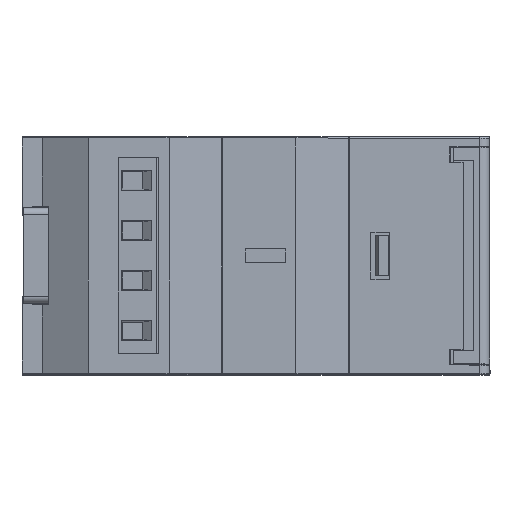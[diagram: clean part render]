
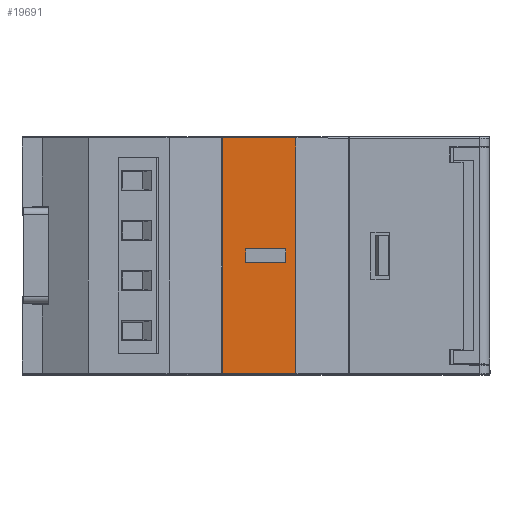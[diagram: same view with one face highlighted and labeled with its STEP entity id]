
A CAD part, top view. The second image highlights one B-rep face of the part: STEP entity #19691.
In plain terms, the highlighted planar face has unit normal (0, 0, 1).
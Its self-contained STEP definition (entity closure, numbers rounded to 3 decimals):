
#1879 = CARTESIAN_POINT ( 'NONE',  ( 39.5, 16.6, 74.75 ) ) ;
#3694 = LINE ( 'NONE', #29254, #54826 ) ;
#4334 = ORIENTED_EDGE ( 'NONE', *, *, #75658, .T. ) ;
#9789 = DIRECTION ( 'NONE',  ( 1., 0., 0. ) ) ;
#10201 = CARTESIAN_POINT ( 'NONE',  ( 30., 0., 74.75 ) ) ;
#11592 = CARTESIAN_POINT ( 'NONE',  ( 30., 35.2, 74.75 ) ) ;
#12620 = CARTESIAN_POINT ( 'NONE',  ( 39.5, 18.6, 74.75 ) ) ;
#14368 = CARTESIAN_POINT ( 'NONE',  ( 30., 35.4, 74.75 ) ) ;
#14709 = CARTESIAN_POINT ( 'NONE',  ( 33.5, 35.4, 74.75 ) ) ;
#15082 = VECTOR ( 'NONE', #68462, 1000. ) ;
#15676 = VERTEX_POINT ( 'NONE', #37745 ) ;
#16322 = EDGE_CURVE ( 'NONE', #32421, #16324, #44612, .T. ) ;
#16324 = VERTEX_POINT ( 'NONE', #63385 ) ;
#17054 = ORIENTED_EDGE ( 'NONE', *, *, #78366, .F. ) ;
#17289 = LINE ( 'NONE', #10201, #75641 ) ;
#17845 = FACE_BOUND ( 'NONE', #41049, .T. ) ;
#19054 = VERTEX_POINT ( 'NONE', #51695 ) ;
#19691 = ADVANCED_FACE ( 'NONE', ( #17845, #43377 ), #29206, .F. ) ;
#21129 = EDGE_LOOP ( 'NONE', ( #48738, #38425, #48945, #32172 ) ) ;
#21743 = DIRECTION ( 'NONE',  ( -1., 0., 0. ) ) ;
#23566 = CARTESIAN_POINT ( 'NONE',  ( 30., 35.2, 74.75 ) ) ;
#24558 = CARTESIAN_POINT ( 'NONE',  ( 41., 35.4, 74.75 ) ) ;
#26894 = LINE ( 'NONE', #14709, #76888 ) ;
#27353 = EDGE_CURVE ( 'NONE', #15676, #16324, #17289, .T. ) ;
#28046 = ORIENTED_EDGE ( 'NONE', *, *, #65072, .F. ) ;
#29206 = PLANE ( 'NONE',  #62647 ) ;
#29254 = CARTESIAN_POINT ( 'NONE',  ( 39.5, 35.4, 74.75 ) ) ;
#30157 = VECTOR ( 'NONE', #21743, 1000. ) ;
#30236 = CARTESIAN_POINT ( 'NONE',  ( 33.5, 16.6, 74.75 ) ) ;
#32172 = ORIENTED_EDGE ( 'NONE', *, *, #62748, .T. ) ;
#32381 = DIRECTION ( 'NONE',  ( 0., -1., 0. ) ) ;
#32421 = VERTEX_POINT ( 'NONE', #78842 ) ;
#35936 = LINE ( 'NONE', #11592, #15082 ) ;
#36725 = CARTESIAN_POINT ( 'NONE',  ( 30., 35.4, 74.75 ) ) ;
#37745 = CARTESIAN_POINT ( 'NONE',  ( 30., 0., 74.75 ) ) ;
#37875 = VECTOR ( 'NONE', #32381, 1000. ) ;
#38425 = ORIENTED_EDGE ( 'NONE', *, *, #16322, .F. ) ;
#39578 = LINE ( 'NONE', #1879, #76061 ) ;
#40044 = ORIENTED_EDGE ( 'NONE', *, *, #60274, .T. ) ;
#40617 = CARTESIAN_POINT ( 'NONE',  ( 39.5, 18.6, 74.75 ) ) ;
#41049 = EDGE_LOOP ( 'NONE', ( #40044, #17054, #4334, #28046 ) ) ;
#41058 = VERTEX_POINT ( 'NONE', #12620 ) ;
#42527 = CARTESIAN_POINT ( 'NONE',  ( 39.5, 16.6, 74.75 ) ) ;
#43377 = FACE_OUTER_BOUND ( 'NONE', #21129, .T. ) ;
#44612 = LINE ( 'NONE', #24558, #66024 ) ;
#44737 = VERTEX_POINT ( 'NONE', #23566 ) ;
#45762 = LINE ( 'NONE', #14368, #37875 ) ;
#48738 = ORIENTED_EDGE ( 'NONE', *, *, #27353, .T. ) ;
#48945 = ORIENTED_EDGE ( 'NONE', *, *, #72938, .T. ) ;
#51695 = CARTESIAN_POINT ( 'NONE',  ( 33.5, 18.6, 74.75 ) ) ;
#54659 = DIRECTION ( 'NONE',  ( 1., 0., 0. ) ) ;
#54826 = VECTOR ( 'NONE', #72280, 1000. ) ;
#59146 = DIRECTION ( 'NONE',  ( 1., 0., 0. ) ) ;
#59428 = DIRECTION ( 'NONE',  ( 0., 1., 0. ) ) ;
#60274 = EDGE_CURVE ( 'NONE', #41058, #76235, #3694, .T. ) ;
#62647 = AXIS2_PLACEMENT_3D ( 'NONE', #36725, #74704, #54659 ) ;
#62748 = EDGE_CURVE ( 'NONE', #44737, #15676, #45762, .T. ) ;
#63385 = CARTESIAN_POINT ( 'NONE',  ( 41., 0., 74.75 ) ) ;
#65072 = EDGE_CURVE ( 'NONE', #41058, #19054, #65620, .T. ) ;
#65620 = LINE ( 'NONE', #40617, #30157 ) ;
#66024 = VECTOR ( 'NONE', #82671, 1000. ) ;
#68462 = DIRECTION ( 'NONE',  ( -1., 0., 0. ) ) ;
#72280 = DIRECTION ( 'NONE',  ( 0., -1., 0. ) ) ;
#72938 = EDGE_CURVE ( 'NONE', #32421, #44737, #35936, .T. ) ;
#74704 = DIRECTION ( 'NONE',  ( 0., 0., -1. ) ) ;
#75641 = VECTOR ( 'NONE', #9789, 1000. ) ;
#75658 = EDGE_CURVE ( 'NONE', #80802, #19054, #26894, .T. ) ;
#76061 = VECTOR ( 'NONE', #59146, 1000. ) ;
#76235 = VERTEX_POINT ( 'NONE', #42527 ) ;
#76888 = VECTOR ( 'NONE', #59428, 1000. ) ;
#78366 = EDGE_CURVE ( 'NONE', #80802, #76235, #39578, .T. ) ;
#78842 = CARTESIAN_POINT ( 'NONE',  ( 41., 35.2, 74.75 ) ) ;
#80802 = VERTEX_POINT ( 'NONE', #30236 ) ;
#82671 = DIRECTION ( 'NONE',  ( 0., -1., 0. ) ) ;
